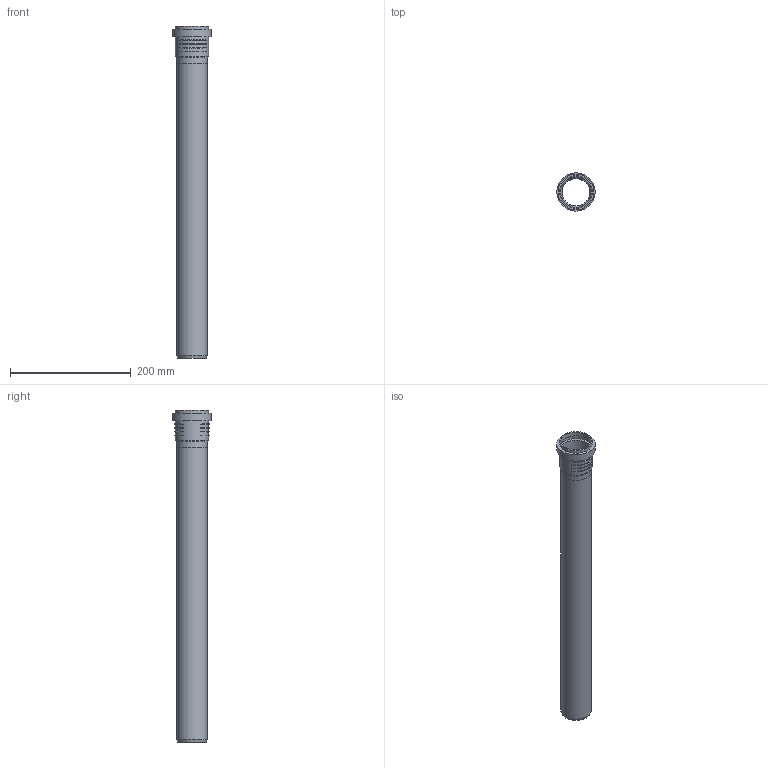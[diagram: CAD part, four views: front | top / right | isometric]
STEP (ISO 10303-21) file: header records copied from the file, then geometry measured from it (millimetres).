
FILE_DESCRIPTION(/* description */ (''),/* implementation_level */ '2;1');
FILE_NAME(/* name */ 'C:\Geberit-Teile\Export 2019\390.202.14.1\stp\390202.stp',/* time_stamp */ '2019-05-27T10:00:38+02:00',/* author */ ('ML'),/* organization */ (''),/* preprocessor_version */ 'ST-DEVELOPER v16.13',/* originating_system */ 'Autodesk Inventor 2018',/* authorisation */ '');
FILE_SCHEMA (('AUTOMOTIVE_DESIGN { 1 0 10303 214 3 1 1 }'));
Length unit declared in the file: millimetre
Products named in the file (3): Rohr mit Muffe PP-MD d50x2 L50; 390.202.14.1 - Rohr; Muffe
Assembly tree (2 placements, depth 2):
  Rohr mit Muffe PP-MD d50x2 L50
    390.202.14.1 - Rohr
    Muffe
Bounding box: 63.5 x 63.5 x 550.8 mm (x, y, z)
Volume: 175305.8 mm3; surface area: 176877 mm2
Topology: 2 solids, 2 shells, 47 faces, 96 edges, 63 vertices
Faces by surface type: torus 24, cylinder 11, plane 10, cone 2
Full cylindrical faces by diameter (mm): 46.15 x2, 50.15 x2, 50.8 x2, 52.8 x1, 54.8 x2, 59.5 x1, 63.5 x1
Entity records: 1843 total; most frequent: CARTESIAN_POINT 866, DIRECTION 182, ORIENTED_EDGE 142, AXIS2_PLACEMENT_3D 91, EDGE_LOOP 78, EDGE_CURVE 71, VERTEX_POINT 55, FACE_OUTER_BOUND 47
